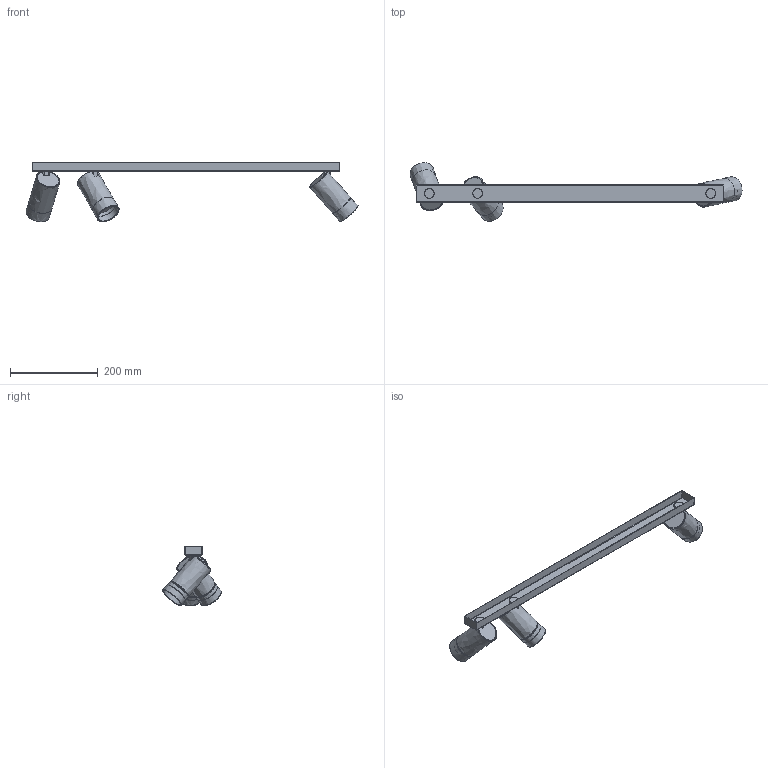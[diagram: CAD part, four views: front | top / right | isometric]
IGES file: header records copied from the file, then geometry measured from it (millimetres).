
Start section: SolidWorks IGES file using NURBS representation for surfaces
Global section: file name: Z:\Modele 3D_WWW\_KOLEKCJE_WWW\MONO\MONO-BELKA\7775\MONO-III-GOLD-7775.IGS; native system: SolidWorks 2021; preprocessor: SolidWorks 2021; author: gabriela.tworek; date: 220118.100959; units: millimetre
Bounding box: 755.01 x 132.98 x 135.44 mm (x, y, z)
Surface area: 273721.1 mm2 (no closed solid volume)
Topology: 0 solids, 0 shells, 185 faces, 1057 edges, 1024 vertices
Faces by surface type: bspline 185
